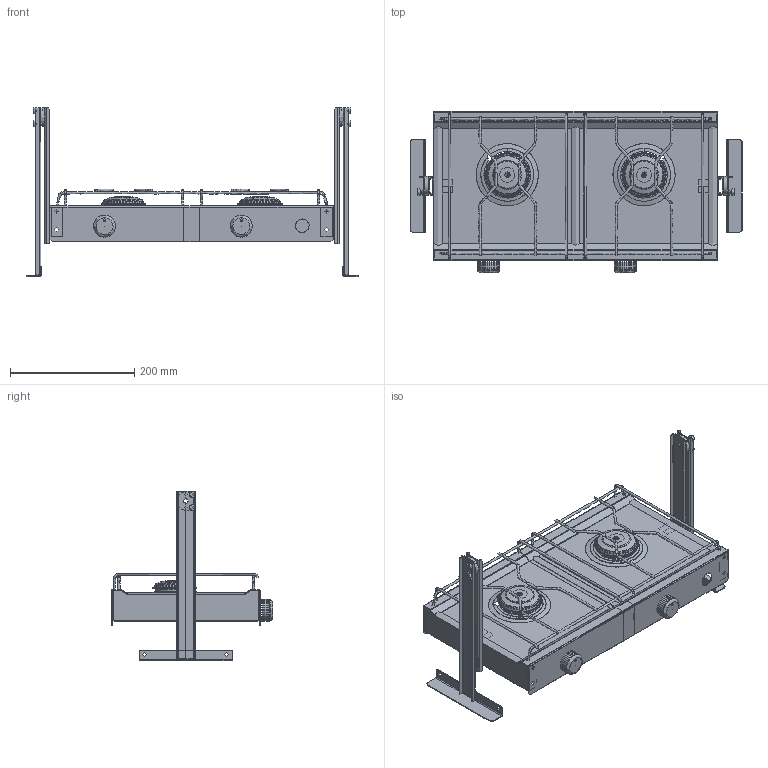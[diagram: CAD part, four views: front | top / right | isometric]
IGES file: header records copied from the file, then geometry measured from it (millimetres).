
Start section:  Alias DesignStudio for Windows version 12.0 IGES version 5.3
Global section: file name: C:\00000LAVORI_IN_CORSO\techimpex\racer e oner\racer avvitamento no linee.iges; native system: Alias DesignStudio for Windows V12.0; preprocessor: 12.0; author: admin; organization: Unknown; date: 20080806.093028; units: millimetre
Bounding box: 534.07 x 259.38 x 273.08 mm (x, y, z)
Surface area: 574706.3 mm2 (no closed solid volume)
Topology: 0 solids, 0 shells, 1209 faces, 7566 edges, 7232 vertices
Faces by surface type: bspline 1209
